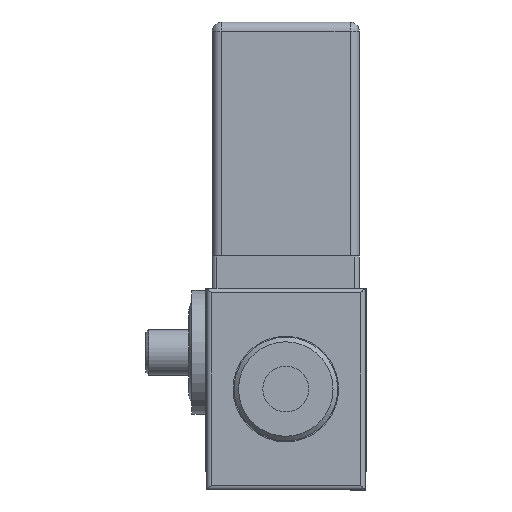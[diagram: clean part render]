
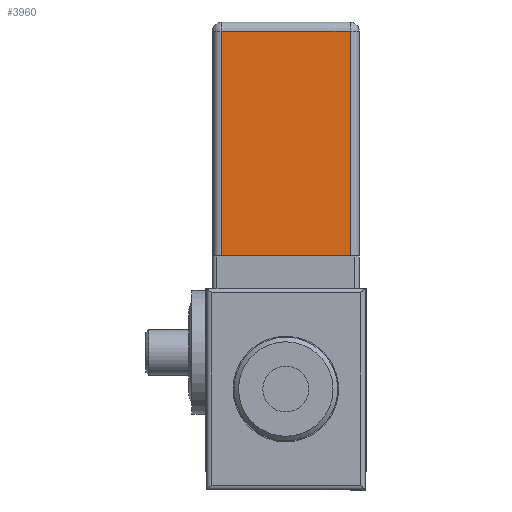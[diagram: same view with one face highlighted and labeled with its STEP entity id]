
A CAD part, left-side view. The second image highlights one B-rep face of the part: STEP entity #3960.
In plain terms, the highlighted planar face has unit normal (-1, 0, 0).
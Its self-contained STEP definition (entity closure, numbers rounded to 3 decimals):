
#828=ORIENTED_EDGE('',*,*,#1654,.F.);
#829=ORIENTED_EDGE('',*,*,#1655,.F.);
#830=ORIENTED_EDGE('',*,*,#1656,.F.);
#831=ORIENTED_EDGE('',*,*,#1638,.F.);
#1638=EDGE_CURVE('',#3322,#3324,#2098,.T.);
#1654=EDGE_CURVE('',#3338,#3322,#2108,.T.);
#1655=EDGE_CURVE('',#3339,#3338,#2109,.T.);
#1656=EDGE_CURVE('',#3324,#3339,#2110,.T.);
#2098=LINE('',#6508,#2456);
#2108=LINE('',#6542,#2466);
#2109=LINE('',#6544,#2467);
#2110=LINE('',#6546,#2468);
#2456=VECTOR('',#5272,1000.);
#2466=VECTOR('',#5302,1000.);
#2467=VECTOR('',#5303,1000.);
#2468=VECTOR('',#5304,1000.);
#2788=EDGE_LOOP('',(#828,#829,#830,#831));
#3040=PLANE('',#4468);
#3322=VERTEX_POINT('',#6506);
#3324=VERTEX_POINT('',#6509);
#3338=VERTEX_POINT('',#6543);
#3339=VERTEX_POINT('',#6545);
#3672=FACE_BOUND('',#2788,.T.);
#3960=ADVANCED_FACE('',(#3672),#3040,.T.);
#4468=AXIS2_PLACEMENT_3D('',#6541,#5300,#5301);
#5272=DIRECTION('',(0.,0.,-1.));
#5300=DIRECTION('',(-1.,0.,0.));
#5301=DIRECTION('',(0.,0.,1.));
#5302=DIRECTION('',(0.,-1.,0.));
#5303=DIRECTION('',(0.,0.,1.));
#5304=DIRECTION('',(0.,1.,0.));
#6506=CARTESIAN_POINT('',(-28.3,-18.,7.));
#6508=CARTESIAN_POINT('',(-28.3,-18.,7.));
#6509=CARTESIAN_POINT('',(-28.3,-18.,-7.));
#6541=CARTESIAN_POINT('',(-28.3,-18.,0.));
#6542=CARTESIAN_POINT('',(-28.3,6.5,7.));
#6543=CARTESIAN_POINT('',(-28.3,6.5,7.));
#6544=CARTESIAN_POINT('',(-28.3,6.5,-7.));
#6545=CARTESIAN_POINT('',(-28.3,6.5,-7.));
#6546=CARTESIAN_POINT('',(-28.3,-18.,-7.));
